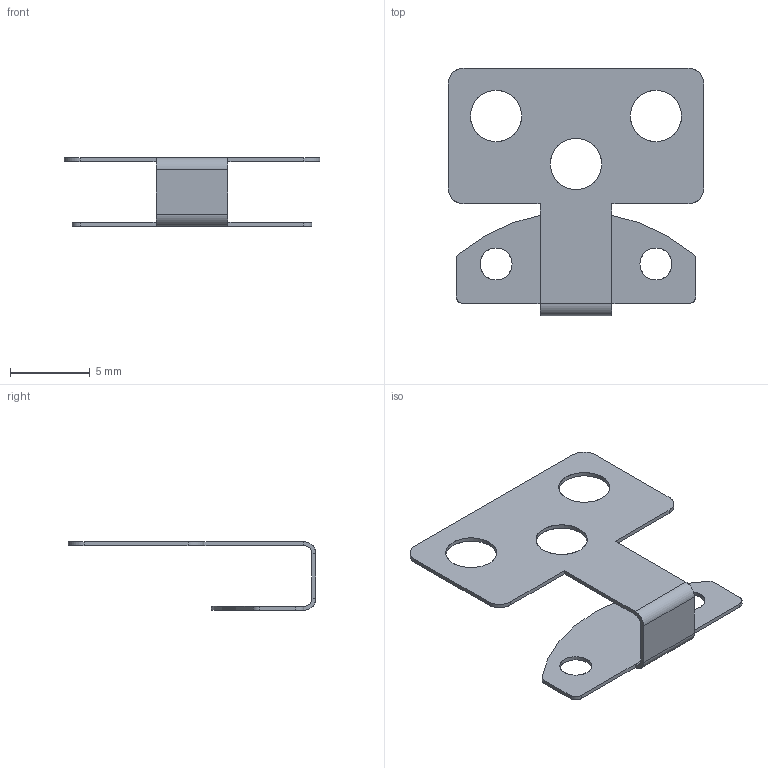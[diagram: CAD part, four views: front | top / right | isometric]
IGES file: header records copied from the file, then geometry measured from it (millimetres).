
Start section: SolidWorks IGES file using analytic representation for surfaces
Bounding box: 16 x 15.5 x 4.3 mm (x, y, z)
Surface area: 490.5 mm2 (no closed solid volume)
Topology: 0 solids, 0 shells, 47 faces, 646 edges, 646 vertices
Faces by surface type: revolution 24, bspline 23
